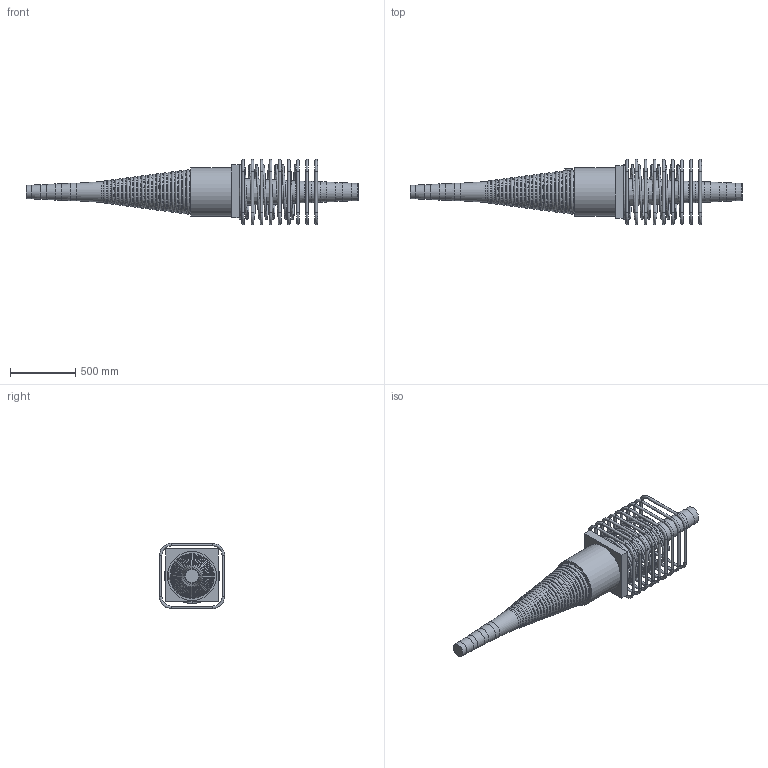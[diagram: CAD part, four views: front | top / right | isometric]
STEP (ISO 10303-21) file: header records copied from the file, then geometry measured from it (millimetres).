
FILE_DESCRIPTION(/* description */ (''),/* implementation_level */ '2;1');
FILE_NAME(/* name */ 'Z:\04 Publications\05 Give-out\BBR\6_3D_Models\BBR VT CONA CMI\BBR VT CONA CMI SP\02506\BBR VT CONA CMI SP 2506_Coupler H Assembly_CS-34,28.stp',/* time_stamp */ '2017-05-09T09:56:37+02:00',/* author */ ('IP'),/* organization */ (''),/* preprocessor_version */ 'ST-DEVELOPER v16.1',/* originating_system */ 'Autodesk Inventor 2016',/* authorisation */ '');
FILE_SCHEMA (('AUTOMOTIVE_DESIGN { 1 0 10303 214 3 1 1 }'));
Products named in the file (1): BBR VT CONA CMI SP 2506_Coupler H Assembly_CS-34,28
Bounding box: 2544.52 x 500 x 500 mm (x, y, z)
Volume: 115864552.9 mm3; surface area: 3633990.7 mm2
Topology: 11 solids, 11 shells, 928 faces, 2375 edges, 1517 vertices
Faces by surface type: bspline 406, plane 258, torus 120, cylinder 106, cone 30, sphere 8
Full cylindrical faces by diameter (mm): 20 x36, 34.089 x1, 57.089 x1, 104 x1, 114 x1, 124 x1, 134 x1, 375 x1
Entity records: 41322 total; most frequent: CARTESIAN_POINT 21724, ORIENTED_EDGE 4370, DIRECTION 2874, EDGE_CURVE 2184, VERTEX_POINT 1511, EDGE_LOOP 1182, AXIS2_PLACEMENT_3D 981, FACE_OUTER_BOUND 928
